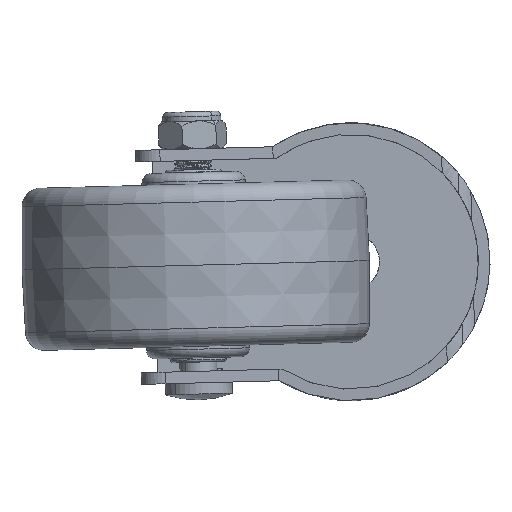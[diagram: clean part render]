
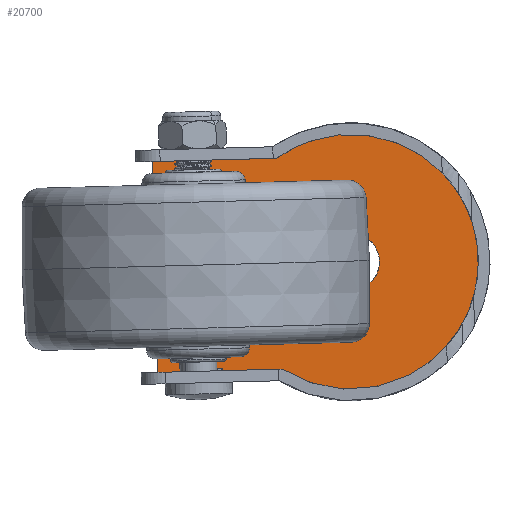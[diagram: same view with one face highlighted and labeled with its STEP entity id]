
A CAD part, front view. The second image highlights one B-rep face of the part: STEP entity #20700.
In plain terms, the highlighted planar face has unit normal (0, -1, 0).
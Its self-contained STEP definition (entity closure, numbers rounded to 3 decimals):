
#354 = AXIS2_PLACEMENT_3D ( 'NONE', #33290, #7138, #21398 ) ;
#1874 = VECTOR ( 'NONE', #7067, 1000. ) ;
#2104 = LINE ( 'NONE', #8362, #9418 ) ;
#3092 = EDGE_CURVE ( 'NONE', #29396, #10692, #2104, .T. ) ;
#3717 = AXIS2_PLACEMENT_3D ( 'NONE', #13331, #10669, #22262 ) ;
#4552 = VERTEX_POINT ( 'NONE', #25409 ) ;
#4568 = VERTEX_POINT ( 'NONE', #5046 ) ;
#5046 = CARTESIAN_POINT ( 'NONE',  ( 0., -1.945, 6.15 ) ) ;
#5051 = DIRECTION ( 'NONE',  ( 1., 0., 0. ) ) ;
#6064 = EDGE_CURVE ( 'NONE', #4552, #4568, #25049, .T. ) ;
#7067 = DIRECTION ( 'NONE',  ( 0., 0., 1. ) ) ;
#7138 = DIRECTION ( 'NONE',  ( 0., 1., 0. ) ) ;
#7201 = ORIENTED_EDGE ( 'NONE', *, *, #32322, .T. ) ;
#7318 = FACE_BOUND ( 'NONE', #32607, .T. ) ;
#8279 = VERTEX_POINT ( 'NONE', #18400 ) ;
#8362 = CARTESIAN_POINT ( 'NONE',  ( 0., -1.945, 22.75 ) ) ;
#8553 = CIRCLE ( 'NONE', #3717, 6.15 ) ;
#9418 = VECTOR ( 'NONE', #19932, 1000. ) ;
#10013 = FACE_OUTER_BOUND ( 'NONE', #19475, .T. ) ;
#10669 = DIRECTION ( 'NONE',  ( 0., 1., 0. ) ) ;
#10692 = VERTEX_POINT ( 'NONE', #13081 ) ;
#11032 = AXIS2_PLACEMENT_3D ( 'NONE', #18780, #21455, #30461 ) ;
#11942 = ORIENTED_EDGE ( 'NONE', *, *, #21550, .F. ) ;
#12515 = CIRCLE ( 'NONE', #354, 27.5 ) ;
#12678 = DIRECTION ( 'NONE',  ( 0., 0., 1. ) ) ;
#13081 = CARTESIAN_POINT ( 'NONE',  ( -15.45, -1.945, 22.75 ) ) ;
#13331 = CARTESIAN_POINT ( 'NONE',  ( 0., -1.945, 0. ) ) ;
#14292 = AXIS2_PLACEMENT_3D ( 'NONE', #30215, #27163, #12678 ) ;
#16197 = CARTESIAN_POINT ( 'NONE',  ( -42.325, -1.945, -22.75 ) ) ;
#16612 = CARTESIAN_POINT ( 'NONE',  ( -65., -1.945, -22.75 ) ) ;
#17009 = ORIENTED_EDGE ( 'NONE', *, *, #23718, .T. ) ;
#18400 = CARTESIAN_POINT ( 'NONE',  ( -15.45, -1.945, -22.75 ) ) ;
#18474 = LINE ( 'NONE', #27084, #1874 ) ;
#18780 = CARTESIAN_POINT ( 'NONE',  ( 0., -1.945, 0. ) ) ;
#19122 = VERTEX_POINT ( 'NONE', #16197 ) ;
#19475 = EDGE_LOOP ( 'NONE', ( #34321, #17009, #11942, #27280 ) ) ;
#19839 = LINE ( 'NONE', #16612, #22281 ) ;
#19932 = DIRECTION ( 'NONE',  ( 1., 0., 0. ) ) ;
#20700 = ADVANCED_FACE ( 'NONE', ( #7318, #10013 ), #33285, .F. ) ;
#21398 = DIRECTION ( 'NONE',  ( 0., 0., 1. ) ) ;
#21455 = DIRECTION ( 'NONE',  ( 0., 1., 0. ) ) ;
#21550 = EDGE_CURVE ( 'NONE', #10692, #8279, #12515, .T. ) ;
#22262 = DIRECTION ( 'NONE',  ( -1., 0., 0. ) ) ;
#22281 = VECTOR ( 'NONE', #5051, 1000. ) ;
#23718 = EDGE_CURVE ( 'NONE', #19122, #8279, #19839, .T. ) ;
#24731 = CARTESIAN_POINT ( 'NONE',  ( -42.325, -1.945, 22.75 ) ) ;
#25049 = CIRCLE ( 'NONE', #11032, 6.15 ) ;
#25409 = CARTESIAN_POINT ( 'NONE',  ( 0., -1.945, -6.15 ) ) ;
#26993 = ORIENTED_EDGE ( 'NONE', *, *, #6064, .T. ) ;
#27084 = CARTESIAN_POINT ( 'NONE',  ( -42.325, -1.945, -30. ) ) ;
#27163 = DIRECTION ( 'NONE',  ( 0., 1., 0. ) ) ;
#27280 = ORIENTED_EDGE ( 'NONE', *, *, #3092, .F. ) ;
#29396 = VERTEX_POINT ( 'NONE', #24731 ) ;
#30215 = CARTESIAN_POINT ( 'NONE',  ( 0., -1.945, 0. ) ) ;
#30461 = DIRECTION ( 'NONE',  ( -1., 0., 0. ) ) ;
#32123 = EDGE_CURVE ( 'NONE', #19122, #29396, #18474, .T. ) ;
#32322 = EDGE_CURVE ( 'NONE', #4568, #4552, #8553, .T. ) ;
#32607 = EDGE_LOOP ( 'NONE', ( #7201, #26993 ) ) ;
#33285 = PLANE ( 'NONE',  #14292 ) ;
#33290 = CARTESIAN_POINT ( 'NONE',  ( 0., -1.945, 0. ) ) ;
#34321 = ORIENTED_EDGE ( 'NONE', *, *, #32123, .F. ) ;
